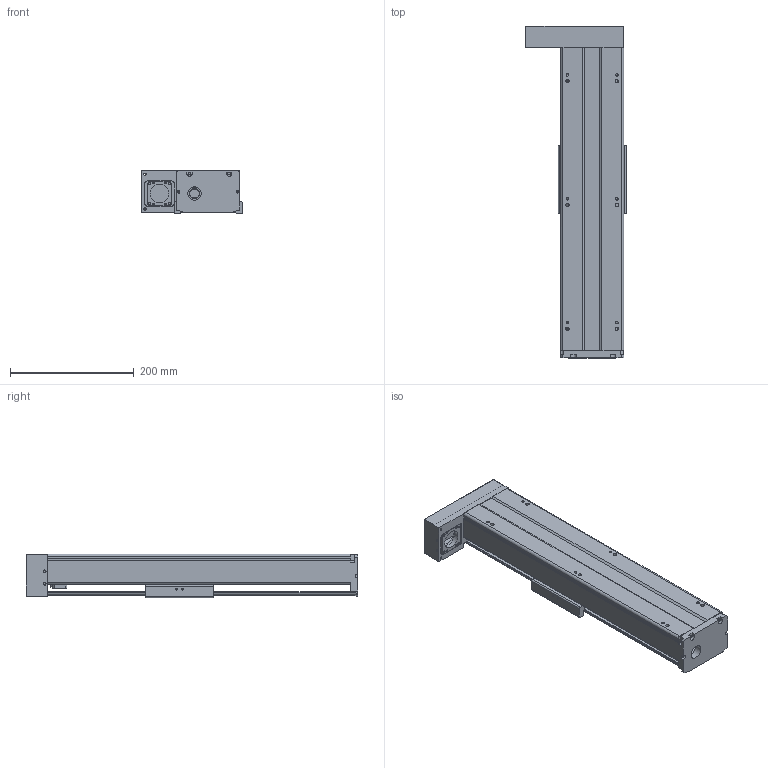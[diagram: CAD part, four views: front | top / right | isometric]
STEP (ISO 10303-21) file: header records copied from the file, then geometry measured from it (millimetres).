
FILE_DESCRIPTION(/* description */ (''),/* implementation_level */ '2;1');
FILE_NAME(/* name */ 'TKA100-FL-300_asm1.stp',/* time_stamp */ '2016-05-17T14:45:02+08:00',/* author */ (''),/* organization */ (''),/* preprocessor_version */ 'ST-DEVELOPER v15',/* originating_system */ 'SIEMENS PLM Software NX 8.5',/* authorisation */ '');
FILE_SCHEMA (('AUTOMOTIVE_DESIGN { 1 0 10303 214 3 1 1 1 }'));
Length unit declared in the file: millimetre
Products named in the file (3): 200-2; 200-1; TKA100-FL-300_asm1
Assembly tree (2 placements, depth 2):
  TKA100-FL-300_asm1
    200-1
    200-2
Bounding box: 162 x 536 x 71 mm (x, y, z)
Volume: 1317828.2 mm3; surface area: 450852.4 mm2
Topology: 2 solids, 16 shells, 776 faces, 2010 edges, 1306 vertices
Faces by surface type: plane 315, cylinder 290, cone 117, torus 28, bspline 26
Full cylindrical faces by diameter (mm): 2.5 x6, 2.6 x8, 3.3 x11, 3.4 x4, 3.8 x8, 4.2 x15, 4.3 x4, 4.5 x10, 5 x2, 5.5 x14, 6.6 x4, 8 x4, 9 x6, 10 x4, 11 x4, 12 x6, 15.3 x1, 16 x1, 22 x1, 24 x1, 28 x2, 30 x1, 33 x1
Entity records: 28634 total; most frequent: CARTESIAN_POINT 10552, DIRECTION 3701, ORIENTED_EDGE 3536, EDGE_CURVE 1768, AXIS2_PLACEMENT_3D 1451, VERTEX_POINT 1244, EDGE_LOOP 1057, LINE 799
